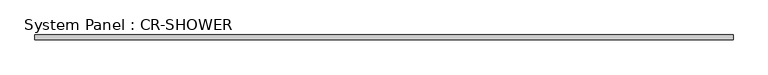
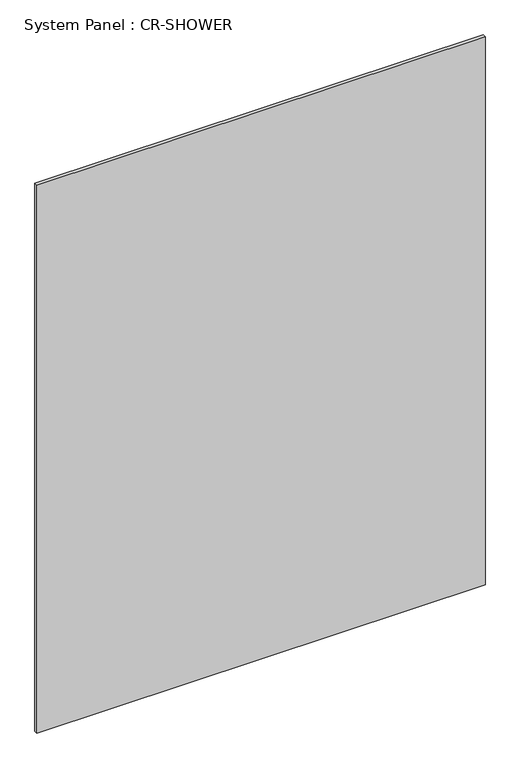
"""IFC4 building model written with IfcOpenShell, lengths in millimetres: plate geometry, System Panel : CR-SHOWER."""

from ifc_helpers import new_model, si_unit, origin, origin_with_axes, place, context, project, spatial, polyline, outline, extrude, source, transform, mapped, element, save


def system_panel_cr_shower_ad642826(model_context):
    return source(origin(), model_context, "Body", "SweptSolid", [
        extrude(outline(polyline([(870.7186812, -12.45), (-870.7186812, -12.45), (-870.7186812, 0.05), (870.7186812, 0.05), (870.7186812, -12.45)])), origin_with_axes(), (0.0, 0.0, 1.0), 2250.0),
    ])


if __name__ == "__main__":
    model = new_model("IFC4")
    model_context = context("Model", 3, world=origin())
    ifc_project = project(units=[si_unit("LENGTHUNIT", "METRE", prefix="MILLI")], contexts=[model_context])
    site = spatial("IfcSite", under=ifc_project)
    building = spatial("IfcBuilding", under=site)
    placement = place(None, origin())
    system_panel_cr_shower_shape = system_panel_cr_shower_ad642826(model_context)
    element("IfcPlate", 1, ObjectType="System Panel : CR-SHOWER", at=placement, inside=building, context=model_context, shape_type="MappedRepresentation", body=[
        mapped(system_panel_cr_shower_shape, transform((0.0, 0.0, 0.0), x_axis=(1.0, 0.0, 0.0), y_axis=(0.0, 1.0, 0.0), z_axis=(0.0, 0.0, 1.0))),
    ])
    save(model, "model.ifc")
